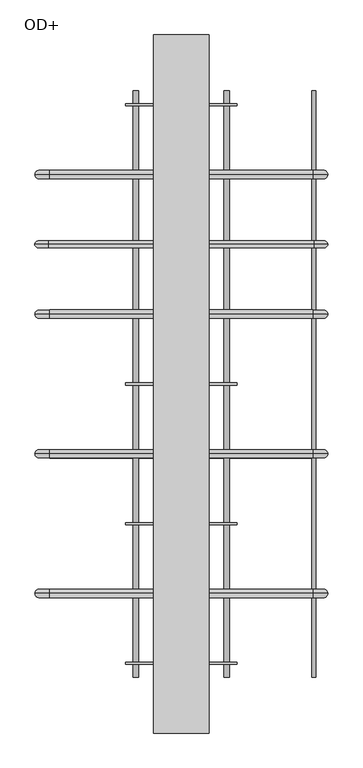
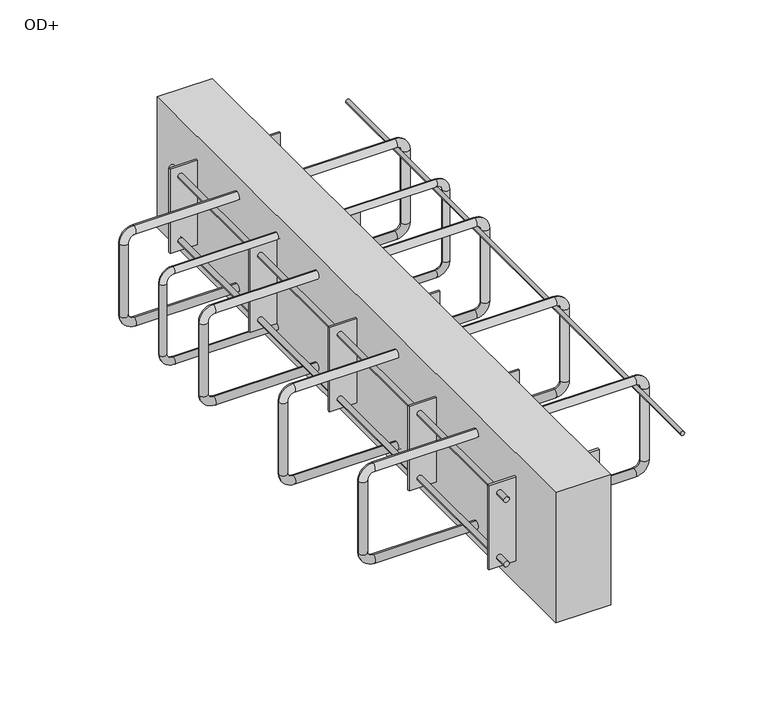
"""IFC4 building model written with IfcOpenShell, lengths in millimetres: fastener geometry, ACINOXplus_Typenreihe_Ux-Ox : OD+."""

from ifc_helpers import new_model, si_unit, point, frame, frame_2d, origin, place, context, project, spatial, polyline, circle_curve, ellipse_curve, trimmed, segment, composite_curve, outline, extrude, source, transform, mapped, element, save
from ifc_brep_helpers import cylinder_surface, revolved_surface, advanced_brep


def od_33f445c9(model_context):
    return source(origin(), model_context, "Body", "SolidModel", [
        advanced_brep(
        [(189.0, 100.0, -35.5), (189.0, 100.0, -23.5), (-189.0, 100.0, -23.5), (-189.0, 100.0, -35.5), (-198.0, 100.0, -44.5), (-210.0, 100.0, -44.5), (-210.0, 100.0, -155.5), (-198.0, 100.0, -155.5), (-189.0, 100.0, -164.5), (-189.0, 100.0, -176.5), (189.0, 100.0, -176.5), (189.0, 100.0, -164.5), (198.0, 100.0, -155.5), (210.0, 100.0, -155.5), (210.0, 100.0, -44.5), (198.0, 100.0, -44.5)],
        [
            (0, 1, circle_curve(frame((189.0, 100.0, -29.5), z_axis=(-1.0, 0.0, 0.0), x_axis=(0.0, 0.0, -1.0)), 6.0)),
            (1, 2),
            (2, 3, circle_curve(frame((-189.0, 100.0, -29.5), z_axis=(1.0, 0.0, 0.0), x_axis=(0.0, 0.0, -1.0)), 6.0)),
            (3, 0),
            (1, 0, circle_curve(frame((189.0, 100.0, -29.5), z_axis=(-1.0, 0.0, 0.0), x_axis=(0.0, 0.0, -1.0)), 6.0)),
            (3, 2, circle_curve(frame((-189.0, 100.0, -29.5), z_axis=(1.0, 0.0, 0.0), x_axis=(0.0, 0.0, -1.0)), 6.0)),
            (4, 3, circle_curve(frame((-189.0, 100.0, -44.5), z_axis=(0.0, 1.0, 0.0), x_axis=(0.0, 0.0, 1.0)), 9.0)),
            (2, 5, circle_curve(frame((-189.0, 100.0, -44.5), z_axis=(0.0, -1.0, 0.0), x_axis=(0.0, 0.0, 1.0)), 21.0)),
            (5, 4, circle_curve(frame((-204.0, 100.0, -44.5), z_axis=(0.0, 0.0, 1.0), x_axis=(1.0, 0.0, 0.0)), 6.0)),
            (4, 5, circle_curve(frame((-204.0, 100.0, -44.5), z_axis=(0.0, 0.0, 1.0), x_axis=(1.0, 0.0, 0.0)), 6.0)),
            (5, 6),
            (6, 7, circle_curve(frame((-204.0, 100.0, -155.5), z_axis=(0.0, 0.0, 1.0), x_axis=(1.0, 0.0, 0.0)), 6.0)),
            (7, 4),
            (7, 6, circle_curve(frame((-204.0, 100.0, -155.5), z_axis=(0.0, 0.0, 1.0), x_axis=(1.0, 0.0, 0.0)), 6.0)),
            (8, 7, circle_curve(frame((-189.0, 100.0, -155.5), z_axis=(0.0, 1.0, 0.0), x_axis=(-1.0, 0.0, 0.0)), 9.0)),
            (6, 9, circle_curve(frame((-189.0, 100.0, -155.5), z_axis=(0.0, -1.0, 0.0), x_axis=(-1.0, 0.0, 0.0)), 21.0)),
            (9, 8, circle_curve(frame((-189.0, 100.0, -170.5), z_axis=(-1.0, 0.0, 0.0), x_axis=(0.0, 0.0, 1.0)), 6.0)),
            (8, 9, circle_curve(frame((-189.0, 100.0, -170.5), z_axis=(-1.0, 0.0, 0.0), x_axis=(0.0, 0.0, 1.0)), 6.0)),
            (9, 10),
            (10, 11, circle_curve(frame((189.0, 100.0, -170.5), z_axis=(-1.0, 0.0, 0.0), x_axis=(0.0, 0.0, 1.0)), 6.0)),
            (11, 8),
            (11, 10, circle_curve(frame((189.0, 100.0, -170.5), z_axis=(-1.0, 0.0, 0.0), x_axis=(0.0, 0.0, 1.0)), 6.0)),
            (12, 11, circle_curve(frame((189.0, 100.0, -155.5), z_axis=(0.0, 1.0, 0.0), x_axis=(0.0, 0.0, -1.0)), 9.0)),
            (10, 13, circle_curve(frame((189.0, 100.0, -155.5), z_axis=(0.0, -1.0, 0.0), x_axis=(0.0, 0.0, -1.0)), 21.0)),
            (13, 12, circle_curve(frame((204.0, 100.0, -155.5), z_axis=(0.0, 0.0, -1.0), x_axis=(-1.0, 0.0, 0.0)), 6.0)),
            (12, 13, circle_curve(frame((204.0, 100.0, -155.5), z_axis=(0.0, 0.0, -1.0), x_axis=(-1.0, 0.0, 0.0)), 6.0)),
            (13, 14),
            (14, 15, circle_curve(frame((204.0, 100.0, -44.5), z_axis=(0.0, 0.0, -1.0), x_axis=(-1.0, 0.0, 0.0)), 6.0)),
            (15, 12),
            (15, 14, circle_curve(frame((204.0, 100.0, -44.5), z_axis=(0.0, 0.0, -1.0), x_axis=(-1.0, 0.0, 0.0)), 6.0)),
            (0, 15, circle_curve(frame((189.0, 100.0, -44.5), z_axis=(0.0, 1.0, 0.0), x_axis=(1.0, 0.0, 0.0)), 9.0)),
            (14, 1, circle_curve(frame((189.0, 100.0, -44.5), z_axis=(0.0, -1.0, 0.0), x_axis=(1.0, 0.0, 0.0)), 21.0)),
        ],
        [
            cylinder_surface(frame((189.0, 100.0, -29.5), z_axis=(1.0, 0.0, 0.0), x_axis=(0.0, 0.0, -1.0)), 6.0),
            revolved_surface(trimmed(ellipse_curve(frame((-189.0, 100.0, -29.5), z_axis=(1.0, 0.0, 0.0), x_axis=(0.0, 0.0, -1.0)), 6.0, 6.0), [point((-189.0, 100.0, -23.5))], [point((-189.0, 100.0, -35.5))], True, "CARTESIAN"), (-189.0, 100.0, -44.5), (0.0, -1.0, 0.0)),
            revolved_surface(trimmed(ellipse_curve(frame((-189.0, 100.0, -29.5), z_axis=(1.0, 0.0, 0.0), x_axis=(0.0, 0.0, -1.0)), 6.0, 6.0), [point((-189.0, 100.0, -35.5))], [point((-189.0, 100.0, -23.5))], True, "CARTESIAN"), (-189.0, 100.0, -44.5), (0.0, -1.0, 0.0)),
            cylinder_surface(frame((-204.0, 100.0, -44.5), z_axis=(0.0, 0.0, 1.0), x_axis=(1.0, 0.0, 0.0)), 6.0),
            revolved_surface(trimmed(ellipse_curve(frame((-204.0, 100.0, -155.5), z_axis=(0.0, 0.0, 1.0), x_axis=(1.0, 0.0, 0.0)), 6.0, 6.0), [point((-210.0, 100.0, -155.5))], [point((-198.0, 100.0, -155.5))], True, "CARTESIAN"), (-189.0, 100.0, -155.5), (0.0, -1.0, 0.0)),
            revolved_surface(trimmed(ellipse_curve(frame((-204.0, 100.0, -155.5), z_axis=(0.0, 0.0, 1.0), x_axis=(1.0, 0.0, 0.0)), 6.0, 6.0), [point((-198.0, 100.0, -155.5))], [point((-210.0, 100.0, -155.5))], True, "CARTESIAN"), (-189.0, 100.0, -155.5), (0.0, -1.0, 0.0)),
            cylinder_surface(frame((-189.0, 100.0, -170.5), z_axis=(-1.0, 0.0, 0.0), x_axis=(0.0, 0.0, 1.0)), 6.0),
            revolved_surface(trimmed(ellipse_curve(frame((189.0, 100.0, -170.5), z_axis=(-1.0, 0.0, 0.0), x_axis=(0.0, 0.0, 1.0)), 6.0, 6.0), [point((189.0, 100.0, -176.5))], [point((189.0, 100.0, -164.5))], True, "CARTESIAN"), (189.0, 100.0, -155.5), (0.0, -1.0, 0.0)),
            revolved_surface(trimmed(ellipse_curve(frame((189.0, 100.0, -170.5), z_axis=(-1.0, 0.0, 0.0), x_axis=(0.0, 0.0, 1.0)), 6.0, 6.0), [point((189.0, 100.0, -164.5))], [point((189.0, 100.0, -176.5))], True, "CARTESIAN"), (189.0, 100.0, -155.5), (0.0, -1.0, 0.0)),
            cylinder_surface(frame((204.0, 100.0, -155.5), z_axis=(0.0, 0.0, -1.0), x_axis=(-1.0, 0.0, 0.0)), 6.0),
            revolved_surface(trimmed(ellipse_curve(frame((204.0, 100.0, -44.5), z_axis=(0.0, 0.0, -1.0), x_axis=(-1.0, 0.0, 0.0)), 6.0, 6.0), [point((210.0, 100.0, -44.5))], [point((198.0, 100.0, -44.5))], True, "CARTESIAN"), (189.0, 100.0, -44.5), (0.0, -1.0, 0.0)),
            revolved_surface(trimmed(ellipse_curve(frame((204.0, 100.0, -44.5), z_axis=(0.0, 0.0, -1.0), x_axis=(-1.0, 0.0, 0.0)), 6.0, 6.0), [point((198.0, 100.0, -44.5))], [point((210.0, 100.0, -44.5))], True, "CARTESIAN"), (189.0, 100.0, -44.5), (0.0, -1.0, 0.0)),
        ],
        [
            (0, [[1, 2, 3, 4]]),
            (0, [[5, -4, 6, -2]]),
            (1, [[7, -3, 8, 9]]),
            (2, [[-8, -6, -7, 10]]),
            (3, [[-9, 11, 12, 13]]),
            (3, [[-10, -13, 14, -11]]),
            (4, [[15, -12, 16, 17]]),
            (5, [[-16, -14, -15, 18]]),
            (6, [[-17, 19, 20, 21]]),
            (6, [[-18, -21, 22, -19]]),
            (7, [[23, -20, 24, 25]]),
            (8, [[-24, -22, -23, 26]]),
            (9, [[-25, 27, 28, 29]]),
            (9, [[-26, -29, 30, -27]]),
            (10, [[31, -28, 32, -1]]),
            (11, [[-32, -30, -31, -5]]),
        ],
    ),
        advanced_brep(
        [(189.0, -100.0, -35.5), (189.0, -100.0, -23.5), (-189.0, -100.0, -23.5), (-189.0, -100.0, -35.5), (-198.0, -100.0, -44.5), (-210.0, -100.0, -44.5), (-210.0, -100.0, -155.5), (-198.0, -100.0, -155.5), (-189.0, -100.0, -164.5), (-189.0, -100.0, -176.5), (189.0, -100.0, -176.5), (189.0, -100.0, -164.5), (198.0, -100.0, -155.5), (210.0, -100.0, -155.5), (210.0, -100.0, -44.5), (198.0, -100.0, -44.5)],
        [
            (0, 1, circle_curve(frame((189.0, -100.0, -29.5), z_axis=(-1.0, 0.0, 0.0), x_axis=(0.0, 0.0, -1.0)), 6.0)),
            (1, 2),
            (2, 3, circle_curve(frame((-189.0, -100.0, -29.5), z_axis=(1.0, 0.0, 0.0), x_axis=(0.0, 0.0, -1.0)), 6.0)),
            (3, 0),
            (1, 0, circle_curve(frame((189.0, -100.0, -29.5), z_axis=(-1.0, 0.0, 0.0), x_axis=(0.0, 0.0, -1.0)), 6.0)),
            (3, 2, circle_curve(frame((-189.0, -100.0, -29.5), z_axis=(1.0, 0.0, 0.0), x_axis=(0.0, 0.0, -1.0)), 6.0)),
            (4, 3, circle_curve(frame((-189.0, -100.0, -44.5), z_axis=(0.0, 1.0, 0.0), x_axis=(0.0, 0.0, 1.0)), 9.0)),
            (2, 5, circle_curve(frame((-189.0, -100.0, -44.5), z_axis=(0.0, -1.0, 0.0), x_axis=(0.0, 0.0, 1.0)), 21.0)),
            (5, 4, circle_curve(frame((-204.0, -100.0, -44.5), z_axis=(0.0, 0.0, 1.0), x_axis=(1.0, 0.0, 0.0)), 6.0)),
            (4, 5, circle_curve(frame((-204.0, -100.0, -44.5), z_axis=(0.0, 0.0, 1.0), x_axis=(1.0, 0.0, 0.0)), 6.0)),
            (5, 6),
            (6, 7, circle_curve(frame((-204.0, -100.0, -155.5), z_axis=(0.0, 0.0, 1.0), x_axis=(1.0, 0.0, 0.0)), 6.0)),
            (7, 4),
            (7, 6, circle_curve(frame((-204.0, -100.0, -155.5), z_axis=(0.0, 0.0, 1.0), x_axis=(1.0, 0.0, 0.0)), 6.0)),
            (8, 7, circle_curve(frame((-189.0, -100.0, -155.5), z_axis=(0.0, 1.0, 0.0), x_axis=(-1.0, 0.0, 0.0)), 9.0)),
            (6, 9, circle_curve(frame((-189.0, -100.0, -155.5), z_axis=(0.0, -1.0, 0.0), x_axis=(-1.0, 0.0, 0.0)), 21.0)),
            (9, 8, circle_curve(frame((-189.0, -100.0, -170.5), z_axis=(-1.0, 0.0, 0.0), x_axis=(0.0, 0.0, 1.0)), 6.0)),
            (8, 9, circle_curve(frame((-189.0, -100.0, -170.5), z_axis=(-1.0, 0.0, 0.0), x_axis=(0.0, 0.0, 1.0)), 6.0)),
            (9, 10),
            (10, 11, circle_curve(frame((189.0, -100.0, -170.5), z_axis=(-1.0, 0.0, 0.0), x_axis=(0.0, 0.0, 1.0)), 6.0)),
            (11, 8),
            (11, 10, circle_curve(frame((189.0, -100.0, -170.5), z_axis=(-1.0, 0.0, 0.0), x_axis=(0.0, 0.0, 1.0)), 6.0)),
            (12, 11, circle_curve(frame((189.0, -100.0, -155.5), z_axis=(0.0, 1.0, 0.0), x_axis=(0.0, 0.0, -1.0)), 9.0)),
            (10, 13, circle_curve(frame((189.0, -100.0, -155.5), z_axis=(0.0, -1.0, 0.0), x_axis=(0.0, 0.0, -1.0)), 21.0)),
            (13, 12, circle_curve(frame((204.0, -100.0, -155.5), z_axis=(0.0, 0.0, -1.0), x_axis=(-1.0, 0.0, 0.0)), 6.0)),
            (12, 13, circle_curve(frame((204.0, -100.0, -155.5), z_axis=(0.0, 0.0, -1.0), x_axis=(-1.0, 0.0, 0.0)), 6.0)),
            (13, 14),
            (14, 15, circle_curve(frame((204.0, -100.0, -44.5), z_axis=(0.0, 0.0, -1.0), x_axis=(-1.0, 0.0, 0.0)), 6.0)),
            (15, 12),
            (15, 14, circle_curve(frame((204.0, -100.0, -44.5), z_axis=(0.0, 0.0, -1.0), x_axis=(-1.0, 0.0, 0.0)), 6.0)),
            (0, 15, circle_curve(frame((189.0, -100.0, -44.5), z_axis=(0.0, 1.0, 0.0), x_axis=(1.0, 0.0, 0.0)), 9.0)),
            (14, 1, circle_curve(frame((189.0, -100.0, -44.5), z_axis=(0.0, -1.0, 0.0), x_axis=(1.0, 0.0, 0.0)), 21.0)),
        ],
        [
            cylinder_surface(frame((189.0, -100.0, -29.5), z_axis=(1.0, 0.0, 0.0), x_axis=(0.0, 0.0, -1.0)), 6.0),
            revolved_surface(trimmed(ellipse_curve(frame((-189.0, -100.0, -29.5), z_axis=(1.0, 0.0, 0.0), x_axis=(0.0, 0.0, -1.0)), 6.0, 6.0), [point((-189.0, -100.0, -23.5))], [point((-189.0, -100.0, -35.5))], True, "CARTESIAN"), (-189.0, -100.0, -44.5), (0.0, -1.0, 0.0)),
            revolved_surface(trimmed(ellipse_curve(frame((-189.0, -100.0, -29.5), z_axis=(1.0, 0.0, 0.0), x_axis=(0.0, 0.0, -1.0)), 6.0, 6.0), [point((-189.0, -100.0, -35.5))], [point((-189.0, -100.0, -23.5))], True, "CARTESIAN"), (-189.0, -100.0, -44.5), (0.0, -1.0, 0.0)),
            cylinder_surface(frame((-204.0, -100.0, -44.5), z_axis=(0.0, 0.0, 1.0), x_axis=(1.0, 0.0, 0.0)), 6.0),
            revolved_surface(trimmed(ellipse_curve(frame((-204.0, -100.0, -155.5), z_axis=(0.0, 0.0, 1.0), x_axis=(1.0, 0.0, 0.0)), 6.0, 6.0), [point((-210.0, -100.0, -155.5))], [point((-198.0, -100.0, -155.5))], True, "CARTESIAN"), (-189.0, -100.0, -155.5), (0.0, -1.0, 0.0)),
            revolved_surface(trimmed(ellipse_curve(frame((-204.0, -100.0, -155.5), z_axis=(0.0, 0.0, 1.0), x_axis=(1.0, 0.0, 0.0)), 6.0, 6.0), [point((-198.0, -100.0, -155.5))], [point((-210.0, -100.0, -155.5))], True, "CARTESIAN"), (-189.0, -100.0, -155.5), (0.0, -1.0, 0.0)),
            cylinder_surface(frame((-189.0, -100.0, -170.5), z_axis=(-1.0, 0.0, 0.0), x_axis=(0.0, 0.0, 1.0)), 6.0),
            revolved_surface(trimmed(ellipse_curve(frame((189.0, -100.0, -170.5), z_axis=(-1.0, 0.0, 0.0), x_axis=(0.0, 0.0, 1.0)), 6.0, 6.0), [point((189.0, -100.0, -176.5))], [point((189.0, -100.0, -164.5))], True, "CARTESIAN"), (189.0, -100.0, -155.5), (0.0, -1.0, 0.0)),
            revolved_surface(trimmed(ellipse_curve(frame((189.0, -100.0, -170.5), z_axis=(-1.0, 0.0, 0.0), x_axis=(0.0, 0.0, 1.0)), 6.0, 6.0), [point((189.0, -100.0, -164.5))], [point((189.0, -100.0, -176.5))], True, "CARTESIAN"), (189.0, -100.0, -155.5), (0.0, -1.0, 0.0)),
            cylinder_surface(frame((204.0, -100.0, -155.5), z_axis=(0.0, 0.0, -1.0), x_axis=(-1.0, 0.0, 0.0)), 6.0),
            revolved_surface(trimmed(ellipse_curve(frame((204.0, -100.0, -44.5), z_axis=(0.0, 0.0, -1.0), x_axis=(-1.0, 0.0, 0.0)), 6.0, 6.0), [point((210.0, -100.0, -44.5))], [point((198.0, -100.0, -44.5))], True, "CARTESIAN"), (189.0, -100.0, -44.5), (0.0, -1.0, 0.0)),
            revolved_surface(trimmed(ellipse_curve(frame((204.0, -100.0, -44.5), z_axis=(0.0, 0.0, -1.0), x_axis=(-1.0, 0.0, 0.0)), 6.0, 6.0), [point((198.0, -100.0, -44.5))], [point((210.0, -100.0, -44.5))], True, "CARTESIAN"), (189.0, -100.0, -44.5), (0.0, -1.0, 0.0)),
        ],
        [
            (0, [[1, 2, 3, 4]]),
            (0, [[5, -4, 6, -2]]),
            (1, [[7, -3, 8, 9]]),
            (2, [[-8, -6, -7, 10]]),
            (3, [[-9, 11, 12, 13]]),
            (3, [[-10, -13, 14, -11]]),
            (4, [[15, -12, 16, 17]]),
            (5, [[-16, -14, -15, 18]]),
            (6, [[-17, 19, 20, 21]]),
            (6, [[-18, -21, 22, -19]]),
            (7, [[23, -20, 24, 25]]),
            (8, [[-24, -22, -23, 26]]),
            (9, [[-25, 27, 28, 29]]),
            (9, [[-26, -29, 30, -27]]),
            (10, [[31, -28, 32, -1]]),
            (11, [[-32, -30, -31, -5]]),
        ],
    ),
        advanced_brep(
        [(189.0, 300.0, -35.5), (189.0, 300.0, -23.5), (-189.0, 300.0, -23.5), (-189.0, 300.0, -35.5), (-198.0, 300.0, -44.5), (-210.0, 300.0, -44.5), (-210.0, 300.0, -155.5), (-198.0, 300.0, -155.5), (-189.0, 300.0, -164.5), (-189.0, 300.0, -176.5), (189.0, 300.0, -176.5), (189.0, 300.0, -164.5), (198.0, 300.0, -155.5), (210.0, 300.0, -155.5), (210.0, 300.0, -44.5), (198.0, 300.0, -44.5)],
        [
            (0, 1, circle_curve(frame((189.0, 300.0, -29.5), z_axis=(-1.0, 0.0, 0.0), x_axis=(0.0, 0.0, -1.0)), 6.0)),
            (1, 2),
            (2, 3, circle_curve(frame((-189.0, 300.0, -29.5), z_axis=(1.0, 0.0, 0.0), x_axis=(0.0, 0.0, -1.0)), 6.0)),
            (3, 0),
            (1, 0, circle_curve(frame((189.0, 300.0, -29.5), z_axis=(-1.0, 0.0, 0.0), x_axis=(0.0, 0.0, -1.0)), 6.0)),
            (3, 2, circle_curve(frame((-189.0, 300.0, -29.5), z_axis=(1.0, 0.0, 0.0), x_axis=(0.0, 0.0, -1.0)), 6.0)),
            (4, 3, circle_curve(frame((-189.0, 300.0, -44.5), z_axis=(0.0, 1.0, 0.0), x_axis=(0.0, 0.0, 1.0)), 9.0)),
            (2, 5, circle_curve(frame((-189.0, 300.0, -44.5), z_axis=(0.0, -1.0, 0.0), x_axis=(0.0, 0.0, 1.0)), 21.0)),
            (5, 4, circle_curve(frame((-204.0, 300.0, -44.5), z_axis=(0.0, 0.0, 1.0), x_axis=(1.0, 0.0, 0.0)), 6.0)),
            (4, 5, circle_curve(frame((-204.0, 300.0, -44.5), z_axis=(0.0, 0.0, 1.0), x_axis=(1.0, 0.0, 0.0)), 6.0)),
            (5, 6),
            (6, 7, circle_curve(frame((-204.0, 300.0, -155.5), z_axis=(0.0, 0.0, 1.0), x_axis=(1.0, 0.0, 0.0)), 6.0)),
            (7, 4),
            (7, 6, circle_curve(frame((-204.0, 300.0, -155.5), z_axis=(0.0, 0.0, 1.0), x_axis=(1.0, 0.0, 0.0)), 6.0)),
            (8, 7, circle_curve(frame((-189.0, 300.0, -155.5), z_axis=(0.0, 1.0, 0.0), x_axis=(-1.0, 0.0, 0.0)), 9.0)),
            (6, 9, circle_curve(frame((-189.0, 300.0, -155.5), z_axis=(0.0, -1.0, 0.0), x_axis=(-1.0, 0.0, 0.0)), 21.0)),
            (9, 8, circle_curve(frame((-189.0, 300.0, -170.5), z_axis=(-1.0, 0.0, 0.0), x_axis=(0.0, 0.0, 1.0)), 6.0)),
            (8, 9, circle_curve(frame((-189.0, 300.0, -170.5), z_axis=(-1.0, 0.0, 0.0), x_axis=(0.0, 0.0, 1.0)), 6.0)),
            (9, 10),
            (10, 11, circle_curve(frame((189.0, 300.0, -170.5), z_axis=(-1.0, 0.0, 0.0), x_axis=(0.0, 0.0, 1.0)), 6.0)),
            (11, 8),
            (11, 10, circle_curve(frame((189.0, 300.0, -170.5), z_axis=(-1.0, 0.0, 0.0), x_axis=(0.0, 0.0, 1.0)), 6.0)),
            (12, 11, circle_curve(frame((189.0, 300.0, -155.5), z_axis=(0.0, 1.0, 0.0), x_axis=(0.0, 0.0, -1.0)), 9.0)),
            (10, 13, circle_curve(frame((189.0, 300.0, -155.5), z_axis=(0.0, -1.0, 0.0), x_axis=(0.0, 0.0, -1.0)), 21.0)),
            (13, 12, circle_curve(frame((204.0, 300.0, -155.5), z_axis=(0.0, 0.0, -1.0), x_axis=(-1.0, 0.0, 0.0)), 6.0)),
            (12, 13, circle_curve(frame((204.0, 300.0, -155.5), z_axis=(0.0, 0.0, -1.0), x_axis=(-1.0, 0.0, 0.0)), 6.0)),
            (13, 14),
            (14, 15, circle_curve(frame((204.0, 300.0, -44.5), z_axis=(0.0, 0.0, -1.0), x_axis=(-1.0, 0.0, 0.0)), 6.0)),
            (15, 12),
            (15, 14, circle_curve(frame((204.0, 300.0, -44.5), z_axis=(0.0, 0.0, -1.0), x_axis=(-1.0, 0.0, 0.0)), 6.0)),
            (0, 15, circle_curve(frame((189.0, 300.0, -44.5), z_axis=(0.0, 1.0, 0.0), x_axis=(1.0, 0.0, 0.0)), 9.0)),
            (14, 1, circle_curve(frame((189.0, 300.0, -44.5), z_axis=(0.0, -1.0, 0.0), x_axis=(1.0, 0.0, 0.0)), 21.0)),
        ],
        [
            cylinder_surface(frame((189.0, 300.0, -29.5), z_axis=(1.0, 0.0, 0.0), x_axis=(0.0, 0.0, -1.0)), 6.0),
            revolved_surface(trimmed(ellipse_curve(frame((-189.0, 300.0, -29.5), z_axis=(1.0, 0.0, 0.0), x_axis=(0.0, 0.0, -1.0)), 6.0, 6.0), [point((-189.0, 300.0, -23.5))], [point((-189.0, 300.0, -35.5))], True, "CARTESIAN"), (-189.0, 300.0, -44.5), (0.0, -1.0, 0.0)),
            revolved_surface(trimmed(ellipse_curve(frame((-189.0, 300.0, -29.5), z_axis=(1.0, 0.0, 0.0), x_axis=(0.0, 0.0, -1.0)), 6.0, 6.0), [point((-189.0, 300.0, -35.5))], [point((-189.0, 300.0, -23.5))], True, "CARTESIAN"), (-189.0, 300.0, -44.5), (0.0, -1.0, 0.0)),
            cylinder_surface(frame((-204.0, 300.0, -44.5), z_axis=(0.0, 0.0, 1.0), x_axis=(1.0, 0.0, 0.0)), 6.0),
            revolved_surface(trimmed(ellipse_curve(frame((-204.0, 300.0, -155.5), z_axis=(0.0, 0.0, 1.0), x_axis=(1.0, 0.0, 0.0)), 6.0, 6.0), [point((-210.0, 300.0, -155.5))], [point((-198.0, 300.0, -155.5))], True, "CARTESIAN"), (-189.0, 300.0, -155.5), (0.0, -1.0, 0.0)),
            revolved_surface(trimmed(ellipse_curve(frame((-204.0, 300.0, -155.5), z_axis=(0.0, 0.0, 1.0), x_axis=(1.0, 0.0, 0.0)), 6.0, 6.0), [point((-198.0, 300.0, -155.5))], [point((-210.0, 300.0, -155.5))], True, "CARTESIAN"), (-189.0, 300.0, -155.5), (0.0, -1.0, 0.0)),
            cylinder_surface(frame((-189.0, 300.0, -170.5), z_axis=(-1.0, 0.0, 0.0), x_axis=(0.0, 0.0, 1.0)), 6.0),
            revolved_surface(trimmed(ellipse_curve(frame((189.0, 300.0, -170.5), z_axis=(-1.0, 0.0, 0.0), x_axis=(0.0, 0.0, 1.0)), 6.0, 6.0), [point((189.0, 300.0, -176.5))], [point((189.0, 300.0, -164.5))], True, "CARTESIAN"), (189.0, 300.0, -155.5), (0.0, -1.0, 0.0)),
            revolved_surface(trimmed(ellipse_curve(frame((189.0, 300.0, -170.5), z_axis=(-1.0, 0.0, 0.0), x_axis=(0.0, 0.0, 1.0)), 6.0, 6.0), [point((189.0, 300.0, -164.5))], [point((189.0, 300.0, -176.5))], True, "CARTESIAN"), (189.0, 300.0, -155.5), (0.0, -1.0, 0.0)),
            cylinder_surface(frame((204.0, 300.0, -155.5), z_axis=(0.0, 0.0, -1.0), x_axis=(-1.0, 0.0, 0.0)), 6.0),
            revolved_surface(trimmed(ellipse_curve(frame((204.0, 300.0, -44.5), z_axis=(0.0, 0.0, -1.0), x_axis=(-1.0, 0.0, 0.0)), 6.0, 6.0), [point((210.0, 300.0, -44.5))], [point((198.0, 300.0, -44.5))], True, "CARTESIAN"), (189.0, 300.0, -44.5), (0.0, -1.0, 0.0)),
            revolved_surface(trimmed(ellipse_curve(frame((204.0, 300.0, -44.5), z_axis=(0.0, 0.0, -1.0), x_axis=(-1.0, 0.0, 0.0)), 6.0, 6.0), [point((198.0, 300.0, -44.5))], [point((210.0, 300.0, -44.5))], True, "CARTESIAN"), (189.0, 300.0, -44.5), (0.0, -1.0, 0.0)),
        ],
        [
            (0, [[1, 2, 3, 4]]),
            (0, [[5, -4, 6, -2]]),
            (1, [[7, -3, 8, 9]]),
            (2, [[-8, -6, -7, 10]]),
            (3, [[-9, 11, 12, 13]]),
            (3, [[-10, -13, 14, -11]]),
            (4, [[15, -12, 16, 17]]),
            (5, [[-16, -14, -15, 18]]),
            (6, [[-17, 19, 20, 21]]),
            (6, [[-18, -21, 22, -19]]),
            (7, [[23, -20, 24, 25]]),
            (8, [[-24, -22, -23, 26]]),
            (9, [[-25, 27, 28, 29]]),
            (9, [[-26, -29, 30, -27]]),
            (10, [[31, -28, 32, -1]]),
            (11, [[-32, -30, -31, -5]]),
        ],
    ),
        advanced_brep(
        [(189.0, -300.0, -35.5), (189.0, -300.0, -23.5), (-189.0, -300.0, -23.5), (-189.0, -300.0, -35.5), (-198.0, -300.0, -44.5), (-210.0, -300.0, -44.5), (-210.0, -300.0, -155.5), (-198.0, -300.0, -155.5), (-189.0, -300.0, -164.5), (-189.0, -300.0, -176.5), (189.0, -300.0, -176.5), (189.0, -300.0, -164.5), (198.0, -300.0, -155.5), (210.0, -300.0, -155.5), (210.0, -300.0, -44.5), (198.0, -300.0, -44.5)],
        [
            (0, 1, circle_curve(frame((189.0, -300.0, -29.5), z_axis=(-1.0, 0.0, 0.0), x_axis=(0.0, 0.0, -1.0)), 6.0)),
            (1, 2),
            (2, 3, circle_curve(frame((-189.0, -300.0, -29.5), z_axis=(1.0, 0.0, 0.0), x_axis=(0.0, 0.0, -1.0)), 6.0)),
            (3, 0),
            (1, 0, circle_curve(frame((189.0, -300.0, -29.5), z_axis=(-1.0, 0.0, 0.0), x_axis=(0.0, 0.0, -1.0)), 6.0)),
            (3, 2, circle_curve(frame((-189.0, -300.0, -29.5), z_axis=(1.0, 0.0, 0.0), x_axis=(0.0, 0.0, -1.0)), 6.0)),
            (4, 3, circle_curve(frame((-189.0, -300.0, -44.5), z_axis=(0.0, 1.0, 0.0), x_axis=(0.0, 0.0, 1.0)), 9.0)),
            (2, 5, circle_curve(frame((-189.0, -300.0, -44.5), z_axis=(0.0, -1.0, 0.0), x_axis=(0.0, 0.0, 1.0)), 21.0)),
            (5, 4, circle_curve(frame((-204.0, -300.0, -44.5), z_axis=(0.0, 0.0, 1.0), x_axis=(1.0, 0.0, 0.0)), 6.0)),
            (4, 5, circle_curve(frame((-204.0, -300.0, -44.5), z_axis=(0.0, 0.0, 1.0), x_axis=(1.0, 0.0, 0.0)), 6.0)),
            (5, 6),
            (6, 7, circle_curve(frame((-204.0, -300.0, -155.5), z_axis=(0.0, 0.0, 1.0), x_axis=(1.0, 0.0, 0.0)), 6.0)),
            (7, 4),
            (7, 6, circle_curve(frame((-204.0, -300.0, -155.5), z_axis=(0.0, 0.0, 1.0), x_axis=(1.0, 0.0, 0.0)), 6.0)),
            (8, 7, circle_curve(frame((-189.0, -300.0, -155.5), z_axis=(0.0, 1.0, 0.0), x_axis=(-1.0, 0.0, 0.0)), 9.0)),
            (6, 9, circle_curve(frame((-189.0, -300.0, -155.5), z_axis=(0.0, -1.0, 0.0), x_axis=(-1.0, 0.0, 0.0)), 21.0)),
            (9, 8, circle_curve(frame((-189.0, -300.0, -170.5), z_axis=(-1.0, 0.0, 0.0), x_axis=(0.0, 0.0, 1.0)), 6.0)),
            (8, 9, circle_curve(frame((-189.0, -300.0, -170.5), z_axis=(-1.0, 0.0, 0.0), x_axis=(0.0, 0.0, 1.0)), 6.0)),
            (9, 10),
            (10, 11, circle_curve(frame((189.0, -300.0, -170.5), z_axis=(-1.0, 0.0, 0.0), x_axis=(0.0, 0.0, 1.0)), 6.0)),
            (11, 8),
            (11, 10, circle_curve(frame((189.0, -300.0, -170.5), z_axis=(-1.0, 0.0, 0.0), x_axis=(0.0, 0.0, 1.0)), 6.0)),
            (12, 11, circle_curve(frame((189.0, -300.0, -155.5), z_axis=(0.0, 1.0, 0.0), x_axis=(0.0, 0.0, -1.0)), 9.0)),
            (10, 13, circle_curve(frame((189.0, -300.0, -155.5), z_axis=(0.0, -1.0, 0.0), x_axis=(0.0, 0.0, -1.0)), 21.0)),
            (13, 12, circle_curve(frame((204.0, -300.0, -155.5), z_axis=(0.0, 0.0, -1.0), x_axis=(-1.0, 0.0, 0.0)), 6.0)),
            (12, 13, circle_curve(frame((204.0, -300.0, -155.5), z_axis=(0.0, 0.0, -1.0), x_axis=(-1.0, 0.0, 0.0)), 6.0)),
            (13, 14),
            (14, 15, circle_curve(frame((204.0, -300.0, -44.5), z_axis=(0.0, 0.0, -1.0), x_axis=(-1.0, 0.0, 0.0)), 6.0)),
            (15, 12),
            (15, 14, circle_curve(frame((204.0, -300.0, -44.5), z_axis=(0.0, 0.0, -1.0), x_axis=(-1.0, 0.0, 0.0)), 6.0)),
            (0, 15, circle_curve(frame((189.0, -300.0, -44.5), z_axis=(0.0, 1.0, 0.0), x_axis=(1.0, 0.0, 0.0)), 9.0)),
            (14, 1, circle_curve(frame((189.0, -300.0, -44.5), z_axis=(0.0, -1.0, 0.0), x_axis=(1.0, 0.0, 0.0)), 21.0)),
        ],
        [
            cylinder_surface(frame((189.0, -300.0, -29.5), z_axis=(1.0, 0.0, 0.0), x_axis=(0.0, 0.0, -1.0)), 6.0),
            revolved_surface(trimmed(ellipse_curve(frame((-189.0, -300.0, -29.5), z_axis=(1.0, 0.0, 0.0), x_axis=(0.0, 0.0, -1.0)), 6.0, 6.0), [point((-189.0, -300.0, -23.5))], [point((-189.0, -300.0, -35.5))], True, "CARTESIAN"), (-189.0, -300.0, -44.5), (0.0, -1.0, 0.0)),
            revolved_surface(trimmed(ellipse_curve(frame((-189.0, -300.0, -29.5), z_axis=(1.0, 0.0, 0.0), x_axis=(0.0, 0.0, -1.0)), 6.0, 6.0), [point((-189.0, -300.0, -35.5))], [point((-189.0, -300.0, -23.5))], True, "CARTESIAN"), (-189.0, -300.0, -44.5), (0.0, -1.0, 0.0)),
            cylinder_surface(frame((-204.0, -300.0, -44.5), z_axis=(0.0, 0.0, 1.0), x_axis=(1.0, 0.0, 0.0)), 6.0),
            revolved_surface(trimmed(ellipse_curve(frame((-204.0, -300.0, -155.5), z_axis=(0.0, 0.0, 1.0), x_axis=(1.0, 0.0, 0.0)), 6.0, 6.0), [point((-210.0, -300.0, -155.5))], [point((-198.0, -300.0, -155.5))], True, "CARTESIAN"), (-189.0, -300.0, -155.5), (0.0, -1.0, 0.0)),
            revolved_surface(trimmed(ellipse_curve(frame((-204.0, -300.0, -155.5), z_axis=(0.0, 0.0, 1.0), x_axis=(1.0, 0.0, 0.0)), 6.0, 6.0), [point((-198.0, -300.0, -155.5))], [point((-210.0, -300.0, -155.5))], True, "CARTESIAN"), (-189.0, -300.0, -155.5), (0.0, -1.0, 0.0)),
            cylinder_surface(frame((-189.0, -300.0, -170.5), z_axis=(-1.0, 0.0, 0.0), x_axis=(0.0, 0.0, 1.0)), 6.0),
            revolved_surface(trimmed(ellipse_curve(frame((189.0, -300.0, -170.5), z_axis=(-1.0, 0.0, 0.0), x_axis=(0.0, 0.0, 1.0)), 6.0, 6.0), [point((189.0, -300.0, -176.5))], [point((189.0, -300.0, -164.5))], True, "CARTESIAN"), (189.0, -300.0, -155.5), (0.0, -1.0, 0.0)),
            revolved_surface(trimmed(ellipse_curve(frame((189.0, -300.0, -170.5), z_axis=(-1.0, 0.0, 0.0), x_axis=(0.0, 0.0, 1.0)), 6.0, 6.0), [point((189.0, -300.0, -164.5))], [point((189.0, -300.0, -176.5))], True, "CARTESIAN"), (189.0, -300.0, -155.5), (0.0, -1.0, 0.0)),
            cylinder_surface(frame((204.0, -300.0, -155.5), z_axis=(0.0, 0.0, -1.0), x_axis=(-1.0, 0.0, 0.0)), 6.0),
            revolved_surface(trimmed(ellipse_curve(frame((204.0, -300.0, -44.5), z_axis=(0.0, 0.0, -1.0), x_axis=(-1.0, 0.0, 0.0)), 6.0, 6.0), [point((210.0, -300.0, -44.5))], [point((198.0, -300.0, -44.5))], True, "CARTESIAN"), (189.0, -300.0, -44.5), (0.0, -1.0, 0.0)),
            revolved_surface(trimmed(ellipse_curve(frame((204.0, -300.0, -44.5), z_axis=(0.0, 0.0, -1.0), x_axis=(-1.0, 0.0, 0.0)), 6.0, 6.0), [point((198.0, -300.0, -44.5))], [point((210.0, -300.0, -44.5))], True, "CARTESIAN"), (189.0, -300.0, -44.5), (0.0, -1.0, 0.0)),
        ],
        [
            (0, [[1, 2, 3, 4]]),
            (0, [[5, -4, 6, -2]]),
            (1, [[7, -3, 8, 9]]),
            (2, [[-8, -6, -7, 10]]),
            (3, [[-9, 11, 12, 13]]),
            (3, [[-10, -13, 14, -11]]),
            (4, [[15, -12, 16, 17]]),
            (5, [[-16, -14, -15, 18]]),
            (6, [[-17, 19, 20, 21]]),
            (6, [[-18, -21, 22, -19]]),
            (7, [[23, -20, 24, 25]]),
            (8, [[-24, -22, -23, 26]]),
            (9, [[-25, 27, 28, 29]]),
            (9, [[-26, -29, 30, -27]]),
            (10, [[31, -28, 32, -1]]),
            (11, [[-32, -30, -31, -5]]),
        ],
    ),
        extrude(outline(composite_curve([segment(trimmed(circle_curve(frame_2d((-38.5, 190.0)), 3.0), [point((-38.5, 193.0))], [point((-38.5, 187.0))], False, "CARTESIAN"), True, "CONTINUOUS"), segment(trimmed(circle_curve(frame_2d((-38.5, 190.0)), 3.0), [point((-38.5, 187.0))], [point((-38.5, 193.0))], False, "CARTESIAN"), True, "CONTINUOUS")], self_intersect=False)), frame((0.0, -420.0, 0.0), z_axis=(0.0, 1.0, 0.0), x_axis=(0.0, 0.0, 1.0)), (0.0, 0.0, 1.0), 840.0),
        extrude(outline(polyline([(40.0, 500.0), (40.0, -500.0), (-40.0, -500.0), (-40.0, 500.0), (40.0, 500.0)])), frame((0.0, 0.0, -200.0), z_axis=(0.0, 0.0, 1.0), x_axis=(1.0, 0.0, 0.0)), (0.0, 0.0, 1.0), 200.0),
        extrude(outline(polyline([(80.0, -198.5), (80.0, -201.5), (-80.0, -201.5), (-80.0, -198.5), (80.0, -198.5)])), frame((0.0, 0.0, -164.5), z_axis=(0.0, 0.0, 1.0), x_axis=(1.0, 0.0, 0.0)), (0.0, 0.0, 1.0), 129.0),
        extrude(outline(polyline([(80.0, 1.5), (80.0, -1.5), (-80.0, -1.5), (-80.0, 1.5), (80.0, 1.5)])), frame((0.0, 0.0, -164.5), z_axis=(0.0, 0.0, 1.0), x_axis=(1.0, 0.0, 0.0)), (0.0, 0.0, 1.0), 129.0),
        extrude(outline(polyline([(80.0, 201.5), (80.0, 198.5), (-80.0, 198.5), (-80.0, 201.5), (80.0, 201.5)])), frame((0.0, 0.0, -164.5), z_axis=(0.0, 0.0, 1.0), x_axis=(1.0, 0.0, 0.0)), (0.0, 0.0, 1.0), 129.0),
        extrude(outline(polyline([(80.0, -398.5), (80.0, -401.5), (-80.0, -401.5), (-80.0, -398.5), (80.0, -398.5)])), frame((0.0, 0.0, -164.5), z_axis=(0.0, 0.0, 1.0), x_axis=(1.0, 0.0, 0.0)), (0.0, 0.0, 1.0), 129.0),
        extrude(outline(polyline([(80.0, 401.5), (80.0, 398.5), (-80.0, 398.5), (-80.0, 401.5), (80.0, 401.5)])), frame((0.0, 0.0, -164.5), z_axis=(0.0, 0.0, 1.0), x_axis=(1.0, 0.0, 0.0)), (0.0, 0.0, 1.0), 129.0),
        extrude(outline(composite_curve([segment(trimmed(circle_curve(frame_2d((-149.5, -65.0)), 4.0), [point((-149.5, -61.0))], [point((-149.5, -69.0))], False, "CARTESIAN"), True, "CONTINUOUS"), segment(trimmed(circle_curve(frame_2d((-149.5, -65.0)), 4.0), [point((-149.5, -69.0))], [point((-149.5, -61.0))], False, "CARTESIAN"), True, "CONTINUOUS")], self_intersect=False)), frame((0.0, -420.0, 0.0), z_axis=(0.0, 1.0, 0.0), x_axis=(0.0, 0.0, 1.0)), (0.0, 0.0, 1.0), 18.5),
        extrude(outline(composite_curve([segment(trimmed(circle_curve(frame_2d((-149.5, -65.0)), 4.0), [point((-149.5, -69.0))], [point((-149.5, -61.0))], False, "CARTESIAN"), True, "CONTINUOUS"), segment(trimmed(circle_curve(frame_2d((-149.5, -65.0)), 4.0), [point((-149.5, -61.0))], [point((-149.5, -69.0))], False, "CARTESIAN"), True, "CONTINUOUS")], self_intersect=False)), frame((0.0, -398.5, 0.0), z_axis=(0.0, 1.0, 0.0), x_axis=(0.0, 0.0, 1.0)), (0.0, 0.0, 1.0), 597.0),
        extrude(outline(composite_curve([segment(trimmed(circle_curve(frame_2d((-149.5, -65.0)), 4.0), [point((-149.5, -69.0))], [point((-149.5, -61.0))], False, "CARTESIAN"), True, "CONTINUOUS"), segment(trimmed(circle_curve(frame_2d((-149.5, -65.0)), 4.0), [point((-149.5, -61.0))], [point((-149.5, -69.0))], False, "CARTESIAN"), True, "CONTINUOUS")], self_intersect=False)), frame((0.0, 401.5, 0.0), z_axis=(0.0, 1.0, 0.0), x_axis=(0.0, 0.0, 1.0)), (0.0, 0.0, 1.0), 18.5),
        extrude(outline(composite_curve([segment(trimmed(circle_curve(frame_2d((-149.5, -65.0)), 4.0), [point((-149.5, -69.0))], [point((-149.5, -61.0))], False, "CARTESIAN"), True, "CONTINUOUS"), segment(trimmed(circle_curve(frame_2d((-149.5, -65.0)), 4.0), [point((-149.5, -61.0))], [point((-149.5, -69.0))], False, "CARTESIAN"), True, "CONTINUOUS")], self_intersect=False)), frame((0.0, 201.5, 0.0), z_axis=(0.0, 1.0, 0.0), x_axis=(0.0, 0.0, 1.0)), (0.0, 0.0, 1.0), 197.0),
        extrude(outline(composite_curve([segment(trimmed(circle_curve(frame_2d((-149.5, 65.0)), 4.0), [point((-149.5, 69.0))], [point((-149.5, 61.0))], False, "CARTESIAN"), True, "CONTINUOUS"), segment(trimmed(circle_curve(frame_2d((-149.5, 65.0)), 4.0), [point((-149.5, 61.0))], [point((-149.5, 69.0))], False, "CARTESIAN"), True, "CONTINUOUS")], self_intersect=False)), frame((0.0, -420.0, 0.0), z_axis=(0.0, 1.0, 0.0), x_axis=(0.0, 0.0, 1.0)), (0.0, 0.0, 1.0), 18.5),
        extrude(outline(composite_curve([segment(trimmed(circle_curve(frame_2d((-149.5, 65.0)), 4.0), [point((-149.5, 61.0))], [point((-149.5, 69.0))], False, "CARTESIAN"), True, "CONTINUOUS"), segment(trimmed(circle_curve(frame_2d((-149.5, 65.0)), 4.0), [point((-149.5, 69.0))], [point((-149.5, 61.0))], False, "CARTESIAN"), True, "CONTINUOUS")], self_intersect=False)), frame((0.0, -398.5, 0.0), z_axis=(0.0, 1.0, 0.0), x_axis=(0.0, 0.0, 1.0)), (0.0, 0.0, 1.0), 597.0),
        extrude(outline(composite_curve([segment(trimmed(circle_curve(frame_2d((-149.5, 65.0)), 4.0), [point((-149.5, 61.0))], [point((-149.5, 69.0))], False, "CARTESIAN"), True, "CONTINUOUS"), segment(trimmed(circle_curve(frame_2d((-149.5, 65.0)), 4.0), [point((-149.5, 69.0))], [point((-149.5, 61.0))], False, "CARTESIAN"), True, "CONTINUOUS")], self_intersect=False)), frame((0.0, 401.5, 0.0), z_axis=(0.0, 1.0, 0.0), x_axis=(0.0, 0.0, 1.0)), (0.0, 0.0, 1.0), 18.5),
        extrude(outline(composite_curve([segment(trimmed(circle_curve(frame_2d((-149.5, 65.0)), 4.0), [point((-149.5, 61.0))], [point((-149.5, 69.0))], False, "CARTESIAN"), True, "CONTINUOUS"), segment(trimmed(circle_curve(frame_2d((-149.5, 65.0)), 4.0), [point((-149.5, 69.0))], [point((-149.5, 61.0))], False, "CARTESIAN"), True, "CONTINUOUS")], self_intersect=False)), frame((0.0, 201.5, 0.0), z_axis=(0.0, 1.0, 0.0), x_axis=(0.0, 0.0, 1.0)), (0.0, 0.0, 1.0), 197.0),
        extrude(outline(composite_curve([segment(trimmed(circle_curve(frame_2d((-50.5, -65.0)), 4.0), [point((-50.5, -69.0))], [point((-50.5, -61.0))], False, "CARTESIAN"), True, "CONTINUOUS"), segment(trimmed(circle_curve(frame_2d((-50.5, -65.0)), 4.0), [point((-50.5, -61.0))], [point((-50.5, -69.0))], False, "CARTESIAN"), True, "CONTINUOUS")], self_intersect=False)), frame((0.0, 401.5, 0.0), z_axis=(0.0, 1.0, 0.0), x_axis=(0.0, 0.0, 1.0)), (0.0, 0.0, 1.0), 18.5),
        extrude(outline(composite_curve([segment(trimmed(circle_curve(frame_2d((-50.5, -65.0)), 4.0), [point((-50.5, -61.0))], [point((-50.5, -69.0))], False, "CARTESIAN"), True, "CONTINUOUS"), segment(trimmed(circle_curve(frame_2d((-50.5, -65.0)), 4.0), [point((-50.5, -69.0))], [point((-50.5, -61.0))], False, "CARTESIAN"), True, "CONTINUOUS")], self_intersect=False)), frame((0.0, -420.0, 0.0), z_axis=(0.0, 1.0, 0.0), x_axis=(0.0, 0.0, 1.0)), (0.0, 0.0, 1.0), 18.5),
        extrude(outline(composite_curve([segment(trimmed(circle_curve(frame_2d((-50.5, -65.0)), 4.0), [point((-50.5, -69.0))], [point((-50.5, -61.0))], False, "CARTESIAN"), True, "CONTINUOUS"), segment(trimmed(circle_curve(frame_2d((-50.5, -65.0)), 4.0), [point((-50.5, -61.0))], [point((-50.5, -69.0))], False, "CARTESIAN"), True, "CONTINUOUS")], self_intersect=False)), frame((0.0, -398.5, 0.0), z_axis=(0.0, 1.0, 0.0), x_axis=(0.0, 0.0, 1.0)), (0.0, 0.0, 1.0), 597.0),
        extrude(outline(composite_curve([segment(trimmed(circle_curve(frame_2d((-50.5, -65.0)), 4.0), [point((-50.5, -69.0))], [point((-50.5, -61.0))], False, "CARTESIAN"), True, "CONTINUOUS"), segment(trimmed(circle_curve(frame_2d((-50.5, -65.0)), 4.0), [point((-50.5, -61.0))], [point((-50.5, -69.0))], False, "CARTESIAN"), True, "CONTINUOUS")], self_intersect=False)), frame((0.0, 201.5, 0.0), z_axis=(0.0, 1.0, 0.0), x_axis=(0.0, 0.0, 1.0)), (0.0, 0.0, 1.0), 197.0),
        extrude(outline(composite_curve([segment(trimmed(circle_curve(frame_2d((-50.5, 65.0)), 4.0), [point((-50.5, 61.0))], [point((-50.5, 69.0))], False, "CARTESIAN"), True, "CONTINUOUS"), segment(trimmed(circle_curve(frame_2d((-50.5, 65.0)), 4.0), [point((-50.5, 69.0))], [point((-50.5, 61.0))], False, "CARTESIAN"), True, "CONTINUOUS")], self_intersect=False)), frame((0.0, 401.5, 0.0), z_axis=(0.0, 1.0, 0.0), x_axis=(0.0, 0.0, 1.0)), (0.0, 0.0, 1.0), 18.5),
        extrude(outline(composite_curve([segment(trimmed(circle_curve(frame_2d((-50.5, 65.0)), 4.0), [point((-50.5, 69.0))], [point((-50.5, 61.0))], False, "CARTESIAN"), True, "CONTINUOUS"), segment(trimmed(circle_curve(frame_2d((-50.5, 65.0)), 4.0), [point((-50.5, 61.0))], [point((-50.5, 69.0))], False, "CARTESIAN"), True, "CONTINUOUS")], self_intersect=False)), frame((0.0, -420.0, 0.0), z_axis=(0.0, 1.0, 0.0), x_axis=(0.0, 0.0, 1.0)), (0.0, 0.0, 1.0), 18.5),
        extrude(outline(composite_curve([segment(trimmed(circle_curve(frame_2d((-50.5, 65.0)), 4.0), [point((-50.5, 61.0))], [point((-50.5, 69.0))], False, "CARTESIAN"), True, "CONTINUOUS"), segment(trimmed(circle_curve(frame_2d((-50.5, 65.0)), 4.0), [point((-50.5, 69.0))], [point((-50.5, 61.0))], False, "CARTESIAN"), True, "CONTINUOUS")], self_intersect=False)), frame((0.0, -398.5, 0.0), z_axis=(0.0, 1.0, 0.0), x_axis=(0.0, 0.0, 1.0)), (0.0, 0.0, 1.0), 597.0),
        extrude(outline(composite_curve([segment(trimmed(circle_curve(frame_2d((-50.5, 65.0)), 4.0), [point((-50.5, 61.0))], [point((-50.5, 69.0))], False, "CARTESIAN"), True, "CONTINUOUS"), segment(trimmed(circle_curve(frame_2d((-50.5, 65.0)), 4.0), [point((-50.5, 69.0))], [point((-50.5, 61.0))], False, "CARTESIAN"), True, "CONTINUOUS")], self_intersect=False)), frame((0.0, 201.5, 0.0), z_axis=(0.0, 1.0, 0.0), x_axis=(0.0, 0.0, 1.0)), (0.0, 0.0, 1.0), 197.0),
        advanced_brep(
        [(190.0, 200.0, -35.5), (190.0, 200.0, -25.5), (-190.0, 200.0, -25.5), (-190.0, 200.0, -35.5), (-200.0, 200.0, -45.5), (-210.0, 200.0, -45.5), (-210.0, 200.0, -154.5), (-200.0, 200.0, -154.5), (-190.0, 200.0, -164.5), (-190.0, 200.0, -174.5), (190.0, 200.0, -174.5), (190.0, 200.0, -164.5), (200.0, 200.0, -154.5), (210.0, 200.0, -154.5), (210.0, 200.0, -45.5), (200.0, 200.0, -45.5)],
        [
            (0, 1, circle_curve(frame((190.0, 200.0, -30.5), z_axis=(-1.0, 0.0, 0.0), x_axis=(0.0, 0.0, -1.0)), 5.0)),
            (1, 2),
            (2, 3, circle_curve(frame((-190.0, 200.0, -30.5), z_axis=(1.0, 0.0, 0.0), x_axis=(0.0, 0.0, -1.0)), 5.0)),
            (3, 0),
            (1, 0, circle_curve(frame((190.0, 200.0, -30.5), z_axis=(-1.0, 0.0, 0.0), x_axis=(0.0, 0.0, -1.0)), 5.0)),
            (3, 2, circle_curve(frame((-190.0, 200.0, -30.5), z_axis=(1.0, 0.0, 0.0), x_axis=(0.0, 0.0, -1.0)), 5.0)),
            (4, 3, circle_curve(frame((-190.0, 200.0, -45.5), z_axis=(0.0, 1.0, 0.0), x_axis=(0.0, 0.0, 1.0)), 10.0)),
            (2, 5, circle_curve(frame((-190.0, 200.0, -45.5), z_axis=(0.0, -1.0, 0.0), x_axis=(0.0, 0.0, 1.0)), 20.0)),
            (5, 4, circle_curve(frame((-205.0, 200.0, -45.5), z_axis=(0.0, 0.0, 1.0), x_axis=(1.0, 0.0, 0.0)), 5.0)),
            (4, 5, circle_curve(frame((-205.0, 200.0, -45.5), z_axis=(0.0, 0.0, 1.0), x_axis=(1.0, 0.0, 0.0)), 5.0)),
            (5, 6),
            (6, 7, circle_curve(frame((-205.0, 200.0, -154.5), z_axis=(0.0, 0.0, 1.0), x_axis=(1.0, 0.0, 0.0)), 5.0)),
            (7, 4),
            (7, 6, circle_curve(frame((-205.0, 200.0, -154.5), z_axis=(0.0, 0.0, 1.0), x_axis=(1.0, 0.0, 0.0)), 5.0)),
            (8, 7, circle_curve(frame((-190.0, 200.0, -154.5), z_axis=(0.0, 1.0, 0.0), x_axis=(-1.0, 0.0, 0.0)), 10.0)),
            (6, 9, circle_curve(frame((-190.0, 200.0, -154.5), z_axis=(0.0, -1.0, 0.0), x_axis=(-1.0, 0.0, 0.0)), 20.0)),
            (9, 8, circle_curve(frame((-190.0, 200.0, -169.5), z_axis=(-1.0, 0.0, 0.0), x_axis=(0.0, 0.0, 1.0)), 5.0)),
            (8, 9, circle_curve(frame((-190.0, 200.0, -169.5), z_axis=(-1.0, 0.0, 0.0), x_axis=(0.0, 0.0, 1.0)), 5.0)),
            (9, 10),
            (10, 11, circle_curve(frame((190.0, 200.0, -169.5), z_axis=(-1.0, 0.0, 0.0), x_axis=(0.0, 0.0, 1.0)), 5.0)),
            (11, 8),
            (11, 10, circle_curve(frame((190.0, 200.0, -169.5), z_axis=(-1.0, 0.0, 0.0), x_axis=(0.0, 0.0, 1.0)), 5.0)),
            (12, 11, circle_curve(frame((190.0, 200.0, -154.5), z_axis=(0.0, 1.0, 0.0), x_axis=(0.0, 0.0, -1.0)), 10.0)),
            (10, 13, circle_curve(frame((190.0, 200.0, -154.5), z_axis=(0.0, -1.0, 0.0), x_axis=(0.0, 0.0, -1.0)), 20.0)),
            (13, 12, circle_curve(frame((205.0, 200.0, -154.5), z_axis=(0.0, 0.0, -1.0), x_axis=(-1.0, 0.0, 0.0)), 5.0)),
            (12, 13, circle_curve(frame((205.0, 200.0, -154.5), z_axis=(0.0, 0.0, -1.0), x_axis=(-1.0, 0.0, 0.0)), 5.0)),
            (13, 14),
            (14, 15, circle_curve(frame((205.0, 200.0, -45.5), z_axis=(0.0, 0.0, -1.0), x_axis=(-1.0, 0.0, 0.0)), 5.0)),
            (15, 12),
            (15, 14, circle_curve(frame((205.0, 200.0, -45.5), z_axis=(0.0, 0.0, -1.0), x_axis=(-1.0, 0.0, 0.0)), 5.0)),
            (0, 15, circle_curve(frame((190.0, 200.0, -45.5), z_axis=(0.0, 1.0, 0.0), x_axis=(1.0, 0.0, 0.0)), 10.0)),
            (14, 1, circle_curve(frame((190.0, 200.0, -45.5), z_axis=(0.0, -1.0, 0.0), x_axis=(1.0, 0.0, 0.0)), 20.0)),
        ],
        [
            cylinder_surface(frame((190.0, 200.0, -30.5), z_axis=(1.0, 0.0, 0.0), x_axis=(0.0, 0.0, -1.0)), 5.0),
            revolved_surface(trimmed(ellipse_curve(frame((-190.0, 200.0, -30.5), z_axis=(1.0, 0.0, 0.0), x_axis=(0.0, 0.0, -1.0)), 5.0, 5.0), [point((-190.0, 200.0, -25.5))], [point((-190.0, 200.0, -35.5))], True, "CARTESIAN"), (-190.0, 200.0, -45.5), (0.0, -1.0, 0.0)),
            revolved_surface(trimmed(ellipse_curve(frame((-190.0, 200.0, -30.5), z_axis=(1.0, 0.0, 0.0), x_axis=(0.0, 0.0, -1.0)), 5.0, 5.0), [point((-190.0, 200.0, -35.5))], [point((-190.0, 200.0, -25.5))], True, "CARTESIAN"), (-190.0, 200.0, -45.5), (0.0, -1.0, 0.0)),
            cylinder_surface(frame((-205.0, 200.0, -45.5), z_axis=(0.0, 0.0, 1.0), x_axis=(1.0, 0.0, 0.0)), 5.0),
            revolved_surface(trimmed(ellipse_curve(frame((-205.0, 200.0, -154.5), z_axis=(0.0, 0.0, 1.0), x_axis=(1.0, 0.0, 0.0)), 5.0, 5.0), [point((-210.0, 200.0, -154.5))], [point((-200.0, 200.0, -154.5))], True, "CARTESIAN"), (-190.0, 200.0, -154.5), (0.0, -1.0, 0.0)),
            revolved_surface(trimmed(ellipse_curve(frame((-205.0, 200.0, -154.5), z_axis=(0.0, 0.0, 1.0), x_axis=(1.0, 0.0, 0.0)), 5.0, 5.0), [point((-200.0, 200.0, -154.5))], [point((-210.0, 200.0, -154.5))], True, "CARTESIAN"), (-190.0, 200.0, -154.5), (0.0, -1.0, 0.0)),
            cylinder_surface(frame((-190.0, 200.0, -169.5), z_axis=(-1.0, 0.0, 0.0), x_axis=(0.0, 0.0, 1.0)), 5.0),
            revolved_surface(trimmed(ellipse_curve(frame((190.0, 200.0, -169.5), z_axis=(-1.0, 0.0, 0.0), x_axis=(0.0, 0.0, 1.0)), 5.0, 5.0), [point((190.0, 200.0, -174.5))], [point((190.0, 200.0, -164.5))], True, "CARTESIAN"), (190.0, 200.0, -154.5), (0.0, -1.0, 0.0)),
            revolved_surface(trimmed(ellipse_curve(frame((190.0, 200.0, -169.5), z_axis=(-1.0, 0.0, 0.0), x_axis=(0.0, 0.0, 1.0)), 5.0, 5.0), [point((190.0, 200.0, -164.5))], [point((190.0, 200.0, -174.5))], True, "CARTESIAN"), (190.0, 200.0, -154.5), (0.0, -1.0, 0.0)),
            cylinder_surface(frame((205.0, 200.0, -154.5), z_axis=(0.0, 0.0, -1.0), x_axis=(-1.0, 0.0, 0.0)), 5.0),
            revolved_surface(trimmed(ellipse_curve(frame((205.0, 200.0, -45.5), z_axis=(0.0, 0.0, -1.0), x_axis=(-1.0, 0.0, 0.0)), 5.0, 5.0), [point((210.0, 200.0, -45.5))], [point((200.0, 200.0, -45.5))], True, "CARTESIAN"), (190.0, 200.0, -45.5), (0.0, -1.0, 0.0)),
            revolved_surface(trimmed(ellipse_curve(frame((205.0, 200.0, -45.5), z_axis=(0.0, 0.0, -1.0), x_axis=(-1.0, 0.0, 0.0)), 5.0, 5.0), [point((200.0, 200.0, -45.5))], [point((210.0, 200.0, -45.5))], True, "CARTESIAN"), (190.0, 200.0, -45.5), (0.0, -1.0, 0.0)),
        ],
        [
            (0, [[1, 2, 3, 4]]),
            (0, [[5, -4, 6, -2]]),
            (1, [[7, -3, 8, 9]]),
            (2, [[-8, -6, -7, 10]]),
            (3, [[-9, 11, 12, 13]]),
            (3, [[-10, -13, 14, -11]]),
            (4, [[15, -12, 16, 17]]),
            (5, [[-16, -14, -15, 18]]),
            (6, [[-17, 19, 20, 21]]),
            (6, [[-18, -21, 22, -19]]),
            (7, [[23, -20, 24, 25]]),
            (8, [[-24, -22, -23, 26]]),
            (9, [[-25, 27, 28, 29]]),
            (9, [[-26, -29, 30, -27]]),
            (10, [[31, -28, 32, -1]]),
            (11, [[-32, -30, -31, -5]]),
        ],
    ),
    ])


if __name__ == "__main__":
    model = new_model("IFC4")
    model_context = context("Model", 3, world=origin())
    ifc_project = project(units=[si_unit("LENGTHUNIT", "METRE", prefix="MILLI")], contexts=[model_context])
    site = spatial("IfcSite", under=ifc_project)
    building = spatial("IfcBuilding", under=site)
    placement = place(None, origin())
    od_shape = od_33f445c9(model_context)
    element("IfcFastener", 1, ObjectType="ACINOXplus_Typenreihe_Ux-Ox : OD+", at=placement, inside=building, context=model_context, shape_type="MappedRepresentation", body=[
        mapped(od_shape, transform((0.0, 0.0, 0.0), x_axis=(1.0, 0.0, 0.0), y_axis=(0.0, 1.0, 0.0), z_axis=(0.0, 0.0, 1.0))),
    ])
    save(model, "model.ifc")
